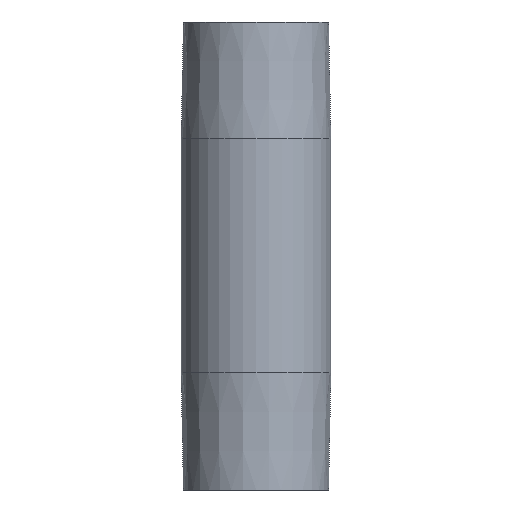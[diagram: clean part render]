
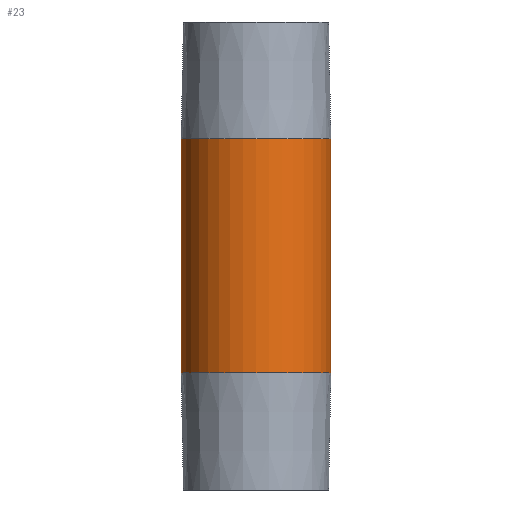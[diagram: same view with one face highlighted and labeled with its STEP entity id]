
A CAD part, front view. The second image highlights one B-rep face of the part: STEP entity #23.
In plain terms, the highlighted cylindrical face has radius 16 mm (diameter 32 mm), a partial arc.
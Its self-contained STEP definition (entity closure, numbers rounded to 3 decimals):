
#9 = CARTESIAN_POINT ( 'NONE',  ( -16., 0., 25. ) ) ;
#23 = ADVANCED_FACE ( 'NONE', ( #289 ), #93, .T. ) ;
#29 = DIRECTION ( 'NONE',  ( 1., 0., 0. ) ) ;
#31 = CARTESIAN_POINT ( 'NONE',  ( -16., 0., -25. ) ) ;
#41 = AXIS2_PLACEMENT_3D ( 'NONE', #281, #209, #29 ) ;
#54 = EDGE_CURVE ( 'NONE', #239, #382, #440, .T. ) ;
#89 = LINE ( 'NONE', #399, #126 ) ;
#93 = CYLINDRICAL_SURFACE ( 'NONE', #171, 16. ) ;
#126 = VECTOR ( 'NONE', #248, 1000. ) ;
#141 = ORIENTED_EDGE ( 'NONE', *, *, #54, .T. ) ;
#155 = EDGE_CURVE ( 'NONE', #466, #445, #379, .T. ) ;
#171 = AXIS2_PLACEMENT_3D ( 'NONE', #285, #200, #458 ) ;
#172 = DIRECTION ( 'NONE',  ( 0., 0., 1. ) ) ;
#190 = CARTESIAN_POINT ( 'NONE',  ( -16., 0., 50. ) ) ;
#200 = DIRECTION ( 'NONE',  ( 0., 0., -1. ) ) ;
#202 = LINE ( 'NONE', #190, #337 ) ;
#209 = DIRECTION ( 'NONE',  ( 0., 0., 1. ) ) ;
#233 = EDGE_CURVE ( 'NONE', #445, #382, #89, .T. ) ;
#239 = VERTEX_POINT ( 'NONE', #31 ) ;
#248 = DIRECTION ( 'NONE',  ( 0., 0., -1. ) ) ;
#266 = CARTESIAN_POINT ( 'NONE',  ( 16., 0., 25. ) ) ;
#273 = AXIS2_PLACEMENT_3D ( 'NONE', #392, #172, #465 ) ;
#281 = CARTESIAN_POINT ( 'NONE',  ( 0., 0., 25. ) ) ;
#283 = ORIENTED_EDGE ( 'NONE', *, *, #155, .F. ) ;
#285 = CARTESIAN_POINT ( 'NONE',  ( 0., 0., 50. ) ) ;
#289 = FACE_OUTER_BOUND ( 'NONE', #451, .T. ) ;
#302 = DIRECTION ( 'NONE',  ( 0., 0., -1. ) ) ;
#337 = VECTOR ( 'NONE', #302, 1000. ) ;
#344 = CARTESIAN_POINT ( 'NONE',  ( 16., 0., -25. ) ) ;
#356 = EDGE_CURVE ( 'NONE', #466, #239, #202, .T. ) ;
#377 = ORIENTED_EDGE ( 'NONE', *, *, #356, .T. ) ;
#379 = CIRCLE ( 'NONE', #41, 16. ) ;
#382 = VERTEX_POINT ( 'NONE', #344 ) ;
#392 = CARTESIAN_POINT ( 'NONE',  ( 0., 0., -25. ) ) ;
#399 = CARTESIAN_POINT ( 'NONE',  ( 16., 0., 50. ) ) ;
#408 = ORIENTED_EDGE ( 'NONE', *, *, #233, .F. ) ;
#440 = CIRCLE ( 'NONE', #273, 16. ) ;
#445 = VERTEX_POINT ( 'NONE', #266 ) ;
#451 = EDGE_LOOP ( 'NONE', ( #408, #283, #377, #141 ) ) ;
#458 = DIRECTION ( 'NONE',  ( -1., 0., 0. ) ) ;
#465 = DIRECTION ( 'NONE',  ( 1., 0., 0. ) ) ;
#466 = VERTEX_POINT ( 'NONE', #9 ) ;
